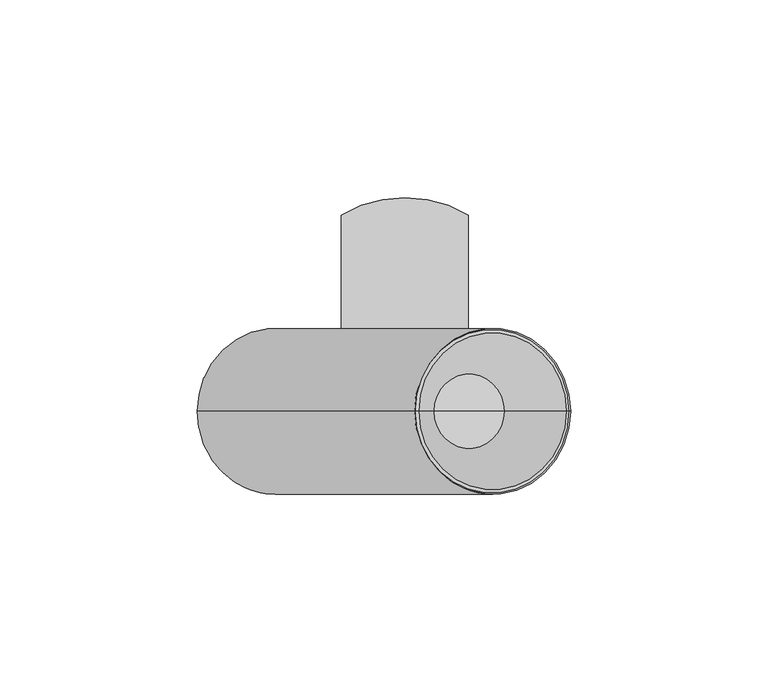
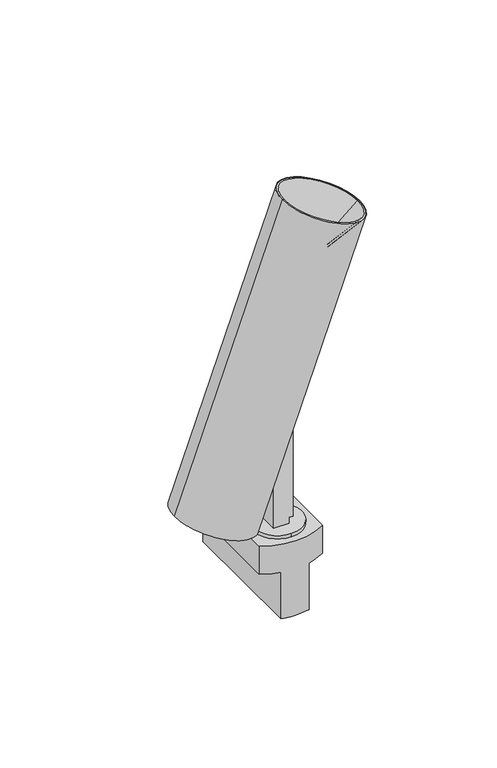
"""IFC4 building model written with IfcOpenShell, lengths in millimetres: light fixture geometry, PIPES T XS : 630lm 7,8W 840 38°."""

from ifc_helpers import new_model, si_unit, point, frame, frame_2d, origin, origin_2d, place, context, project, spatial, polyline, circle_curve, trimmed, segment, composite_curve, outline, extrude, source, transform, mapped, element, save
from ifc_brep_helpers import plane_surface, cylinder_surface, revolved_surface, advanced_brep


def light_fixture_f12659c4(model_context):
    return source(origin(), model_context, "Body", "SolidModel", [
        extrude(outline(composite_curve([segment(polyline([(16.8, -5.0), (16.8, 3.0), (19.8, 3.0), (19.8, 5.0), (77.8486083, 5.0), (77.8486083, -3.0)]), True, "CONTINUOUS"), segment(trimmed(circle_curve(frame_2d((72.2216603, -3.0)), 5.626948), [point((77.8486083, -3.0))], [point((72.2216603, -8.626948))], False, "CARTESIAN"), True, "CONTINUOUS"), segment(polyline([(72.2216603, -8.626948), (66.4039036, -8.626948)]), True, "CONTINUOUS"), segment(trimmed(circle_curve(frame_2d((74.2485419, -2.7611322)), 9.7952104), [point((66.4039036, -8.626948))], [point((64.7126299, -5.0))], False, "CARTESIAN"), True, "CONTINUOUS"), segment(polyline([(64.7126299, -5.0), (16.8, -5.0)]), True, "CONTINUOUS")], self_intersect=False)), frame((0.0, -5.0, 0.0), z_axis=(0.0, 1.0, 0.0), x_axis=(0.0, 0.0, 1.0)), (0.0, 0.0, 1.0), 10.0),
        extrude(outline(composite_curve([segment(trimmed(circle_curve(origin_2d(), 12.5), [point((0.0, 12.5))], [point((0.0, -12.5))], False, "CARTESIAN"), True, "CONTINUOUS"), segment(trimmed(circle_curve(origin_2d(), 12.5), [point((0.0, -12.5))], [point((0.0, 12.5))], False, "CARTESIAN"), True, "CONTINUOUS")], self_intersect=False)), frame((0.0, 0.0, 15.0), z_axis=(0.0, 0.0, 1.0), x_axis=(1.0, 0.0, 0.0)), (0.0, 0.0, 1.0), 1.8),
        advanced_brep(
        [(-7.1153658, -15.2862846, -25.0), (-7.1153658, 53.3498174, -25.0), (7.1153658, 53.3498174, -25.0), (7.1153658, -15.2862846, -25.0), (-16.1153658, 49.7317664, 15.0), (-16.1153658, -11.6682336, 15.0), (16.1153658, -11.6682336, 15.0), (16.1153658, 49.7317664, 15.0), (-16.1153658, 49.7317664, 0.0), (-16.1153658, -11.6682336, 0.0), (-7.1153658, -15.2862846, 0.0), (7.1153658, -15.2862846, 0.0), (16.1153658, -11.6682336, 0.0), (16.1153658, 49.7317664, 0.0), (7.1153658, 53.3498174, 0.0), (-7.1153658, 53.3498174, 0.0)],
        [
            (0, 1),
            (1, 2, circle_curve(frame((0.0, 22.6472542, -25.0), z_axis=(0.0, 0.0, -1.0), x_axis=(1.0, 0.0, 0.0)), 31.5162786)),
            (2, 3),
            (3, 0, circle_curve(frame((0.0, 15.4162786, -25.0), z_axis=(0.0, 0.0, -1.0), x_axis=(1.0, 0.0, 0.0)), 31.5162786)),
            (4, 5),
            (5, 6, circle_curve(frame((0.0, 15.4162786, 15.0), z_axis=(0.0, 0.0, 1.0), x_axis=(1.0, 0.0, 0.0)), 31.5162786)),
            (6, 7),
            (7, 4, circle_curve(frame((0.0, 22.6472542, 15.0), z_axis=(0.0, 0.0, 1.0), x_axis=(1.0, 0.0, 0.0)), 31.5162786)),
            (4, 8),
            (8, 9),
            (9, 5),
            (9, 10, circle_curve(frame((0.0, 15.4162786, 0.0), z_axis=(0.0, 0.0, 1.0), x_axis=(1.0, 0.0, 0.0)), 31.5162786)),
            (10, 0),
            (3, 11),
            (11, 12, circle_curve(frame((0.0, 15.4162786, 0.0), z_axis=(0.0, 0.0, 1.0), x_axis=(1.0, 0.0, 0.0)), 31.5162786)),
            (12, 6),
            (12, 13),
            (13, 7),
            (13, 14, circle_curve(frame((0.0, 22.6472542, 0.0), z_axis=(0.0, 0.0, 1.0), x_axis=(1.0, 0.0, 0.0)), 31.5162786)),
            (14, 2),
            (1, 15),
            (15, 8, circle_curve(frame((0.0, 22.6472542, 0.0), z_axis=(0.0, 0.0, 1.0), x_axis=(1.0, 0.0, 0.0)), 31.5162786)),
            (15, 10),
            (11, 14),
        ],
        [
            plane_surface(frame((-16.1153658, -11.6883244, -25.0), z_axis=(0.0, 0.0, -1.0), x_axis=(0.0, 1.0, 0.0))),
            plane_surface(frame((-16.1153658, -11.6883244, 15.0), z_axis=(0.0, 0.0, 1.0), x_axis=(0.0, -1.0, 0.0))),
            plane_surface(frame((-16.1153658, 49.7317664, 15.0), z_axis=(-1.0, 0.0, 0.0), x_axis=(0.0, 0.0, -1.0))),
            cylinder_surface(frame((0.0, 15.4162786, -25.0), z_axis=(0.0, 0.0, 1.0), x_axis=(1.0, 0.0, 0.0)), 31.5162786),
            plane_surface(frame((16.1153658, -11.6682336, 15.0), z_axis=(1.0, 0.0, 0.0), x_axis=(0.0, 0.0, -1.0))),
            cylinder_surface(frame((0.0, 22.6472542, -25.0), z_axis=(0.0, 0.0, 1.0), x_axis=(1.0, 0.0, 0.0)), 31.5162786),
            plane_surface(frame((-7.1153658, 58.6979838, 0.0), z_axis=(0.0, 0.0, -1.0), x_axis=(-1.0, 0.0, 0.0))),
            plane_surface(frame((-7.1153658, -21.3020162, 0.0), z_axis=(-1.0, 0.0, 0.0), x_axis=(0.0, 0.0, -1.0))),
            plane_surface(frame((7.1153658, -11.6883244, 0.0), z_axis=(0.0, 0.0, -1.0), x_axis=(0.0, -1.0, 0.0))),
            plane_surface(frame((7.1153658, 58.6979838, 0.0), z_axis=(1.0, 0.0, 0.0), x_axis=(0.0, 0.0, -1.0))),
        ],
        [
            (0, [[1, 2, 3, 4]]),
            (1, [[5, 6, 7, 8]]),
            (2, [[-5, 9, 10, 11]]),
            (3, [[-6, -11, 12, 13, -4, 14, 15, 16]]),
            (4, [[-7, -16, 17, 18]]),
            (5, [[-8, -18, 19, 20, -2, 21, 22, -9]]),
            (6, [[23, -12, -10, -22]]),
            (7, [[-23, -21, -1, -13]]),
            (8, [[24, -19, -17, -15]]),
            (9, [[-24, -14, -3, -20]]),
        ],
    ),
        advanced_brep(
        [(-2.9883624, 5.0, 79.4085638), (-20.4313897, 5.0, 31.4842402), (-13.5431583, 5.0, 28.977129), (-15.5952791, 5.0, 23.3389732), (-13.6540853, 5.0, 22.6324365), (5.8410628, 5.0, 76.1949159), (-2.9883624, -5.0, 79.4085638), (5.8410628, -5.0, 76.1949159), (-13.6540853, -5.0, 22.6324365), (-15.5952791, -5.0, 23.3389732), (-13.5431583, -5.0, 28.977129), (-20.4313897, -5.0, 31.4842402), (-20.4313897, 0.0, 31.4842402), (6.4085638, 0.0, 75.9883624), (41.9786587, 0.0, 173.7163949), (2.5115687, 0.0, 188.081241), (-52.5536744, 0.0, 36.790729), (-50.6742892, 0.0, 36.1066887), (-48.6221683, 0.0, 41.7448445), (-30.7680085, 0.0, 35.2464617), (6.5208148, 0.0, 166.9347059), (25.3146672, 0.0, 160.094303), (15.917741, 0.0, 163.5145045)],
        [
            (0, 1),
            (1, 2),
            (2, 3),
            (3, 4),
            (4, 5),
            (5, 0),
            (6, 7),
            (7, 8),
            (8, 9),
            (9, 10),
            (10, 11),
            (11, 6),
            (0, 6),
            (11, 12),
            (12, 1),
            (5, 13, circle_curve(frame((-13.3249812, 0.0, 83.1707854), z_axis=(-0.34202014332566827, 0.0, -0.9396926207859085), x_axis=(0.9396926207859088, 0.0, -0.3420201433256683)), 21.0)),
            (13, 7, circle_curve(frame((-13.3249812, 0.0, 83.1707854), z_axis=(-0.34202014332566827, 0.0, -0.9396926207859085), x_axis=(0.9396926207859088, 0.0, -0.3420201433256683)), 21.0)),
            (14, 15, circle_curve(frame((22.2451137, 0.0, 180.898818), z_axis=(-0.34202014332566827, 0.0, -0.9396926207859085), x_axis=(0.9396926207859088, 0.0, -0.3420201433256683)), 21.0)),
            (15, 16),
            (16, 8, circle_curve(frame((-32.8201294, 0.0, 29.608306), z_axis=(0.34202014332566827, 0.0, 0.9396926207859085), x_axis=(0.9396926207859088, 0.0, -0.3420201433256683)), 21.0)),
            (13, 14),
            (15, 14, circle_curve(frame((22.2451137, 0.0, 180.898818), z_axis=(-0.34202014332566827, 0.0, -0.9396926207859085), x_axis=(0.9396926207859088, 0.0, -0.3420201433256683)), 21.0)),
            (4, 16, circle_curve(frame((-32.8201294, 0.0, 29.608306), z_axis=(0.34202014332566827, 0.0, 0.9396926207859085), x_axis=(0.9396926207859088, 0.0, -0.3420201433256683)), 21.0)),
            (16, 17),
            (17, 9, circle_curve(frame((-32.8201294, 0.0, 29.608306), z_axis=(0.34202014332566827, 0.0, 0.9396926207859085), x_axis=(0.9396926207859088, 0.0, -0.3420201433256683)), 19.0)),
            (3, 17, circle_curve(frame((-32.8201294, 0.0, 29.608306), z_axis=(0.34202014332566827, 0.0, 0.9396926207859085), x_axis=(0.9396926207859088, 0.0, -0.3420201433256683)), 19.0)),
            (17, 18),
            (18, 10, circle_curve(frame((-30.7680085, 0.0, 35.2464617), z_axis=(0.34202014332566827, 0.0, 0.9396926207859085), x_axis=(0.9396926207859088, 0.0, -0.3420201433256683)), 19.0)),
            (2, 18, circle_curve(frame((-30.7680085, 0.0, 35.2464617), z_axis=(0.34202014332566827, 0.0, 0.9396926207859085), x_axis=(0.9396926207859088, 0.0, -0.3420201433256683)), 19.0)),
            (18, 19),
            (19, 12),
            (20, 21, circle_curve(frame((15.917741, 0.0, 163.5145045), z_axis=(0.34202014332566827, 0.0, 0.9396926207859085), x_axis=(0.9396926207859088, 0.0, -0.3420201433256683)), 10.0)),
            (21, 22),
            (22, 20),
            (21, 20, circle_curve(frame((15.917741, 0.0, 163.5145045), z_axis=(0.34202014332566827, 0.0, 0.9396926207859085), x_axis=(0.9396926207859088, 0.0, -0.3420201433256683)), 10.0)),
            (14, 21),
            (20, 15),
        ],
        [
            plane_surface(frame((-2.9883624, 5.0, 79.4085638), z_axis=(0.0, -1.0, 0.0), x_axis=(0.3420201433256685, 0.0, 0.9396926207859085))),
            plane_surface(frame((-2.9883624, -5.0, 79.4085638), z_axis=(0.0, 1.0, 0.0), x_axis=(-0.3420201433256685, 0.0, -0.9396926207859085))),
            plane_surface(frame((-2.9883624, -5.0, 79.4085638), z_axis=(0.9396926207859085, 0.0, -0.3420201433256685), x_axis=(0.0, 1.0, 0.0))),
            plane_surface(frame((15.80549, -5.0, 72.568161), z_axis=(-0.3420201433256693, 0.0, -0.9396926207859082), x_axis=(0.0, 1.0, 0.0))),
            cylinder_surface(frame((-35.7110139, 0.0, 21.665666), z_axis=(-0.34202014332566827, 0.0, -0.9396926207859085), x_axis=(0.9396926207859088, 0.0, -0.3420201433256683)), 21.0),
            plane_surface(frame((-32.8201294, 0.0, 29.608306), z_axis=(-0.34202014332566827, 0.0, -0.9396926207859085), x_axis=(0.9396926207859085, 0.0, -0.34202014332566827))),
            revolved_surface(polyline([(-14.965969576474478, 0.0, 23.109923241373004), (-12.91384868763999, 0.0, 28.748079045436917)]), (-35.7110139, 0.0, 21.665666), (-0.34202014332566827, 0.0, -0.9396926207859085)),
            plane_surface(frame((-30.7680085, 0.0, 35.2464617), z_axis=(-0.34202014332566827, 0.0, -0.9396926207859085), x_axis=(0.9396926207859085, 0.0, -0.34202014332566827))),
            plane_surface(frame((15.917741, 0.0, 163.5145045), z_axis=(0.34202014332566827, 0.0, 0.9396926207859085), x_axis=(0.9396926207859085, 0.0, -0.34202014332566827))),
            revolved_surface(polyline([(25.3146672, 0.0, 160.094303), (41.9786587, 0.0, 173.7163949)]), (-35.7110139, 0.0, 21.665666), (-0.34202014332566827, 0.0, -0.9396926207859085)),
        ],
        [
            (0, [[1, 2, 3, 4, 5, 6]]),
            (1, [[7, 8, 9, 10, 11, 12]]),
            (2, [[13, -12, 14, 15, -1]]),
            (3, [[-13, -6, 16, 17, -7]]),
            (4, [[18, 19, 20, -8, -17, 21]]),
            (4, [[-19, 22, -21, -16, -5, 23]]),
            (5, [[24, 25, -9, -20]]),
            (5, [[-24, -23, -4, 26]]),
            (6, [[27, 28, -10, -25]]),
            (6, [[-27, -26, -3, 29]]),
            (7, [[30, 31, -14, -11, -28]]),
            (7, [[-30, -29, -2, -15, -31]]),
            (8, [[32, 33, 34]]),
            (8, [[-33, 35, -34]]),
            (9, [[-18, 36, -32, 37]]),
            (9, [[-22, -37, -35, -36]]),
        ],
    ),
        advanced_brep(
        [(-21.7994703, 5.0, 27.7254697), (-22.4835106, 5.0, 25.8460844), (-17.5581813, 5.0, 24.0534112), (-16.874141, 5.0, 25.9327964), (-22.4835106, -5.0, 25.8460844), (-21.7994703, -5.0, 27.7254697), (-16.874141, -5.0, 25.9327964), (-17.5581813, -5.0, 24.0534112), (-21.7994703, 0.0, 27.7254697), (-22.4835106, 0.0, 25.8460844), (-32.1360891, 0.0, 31.4876913), (-48.1048904, 0.0, 37.2998596), (-48.7889307, 0.0, 35.4204744), (-32.8201294, 0.0, 29.608306)],
        [
            (0, 1),
            (1, 2),
            (2, 3),
            (3, 0),
            (4, 5),
            (5, 6),
            (6, 7),
            (7, 4),
            (0, 8),
            (8, 5),
            (4, 9),
            (9, 1),
            (10, 11),
            (11, 6, circle_curve(frame((-32.1360891, 0.0, 31.4876913), z_axis=(0.34202014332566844, 0.0, 0.9396926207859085), x_axis=(0.9396926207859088, 0.0, -0.3420201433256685)), 16.9936434)),
            (8, 10),
            (3, 11, circle_curve(frame((-32.1360891, 0.0, 31.4876913), z_axis=(0.34202014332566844, 0.0, 0.9396926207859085), x_axis=(0.9396926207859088, 0.0, -0.3420201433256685)), 16.9936434)),
            (11, 12),
            (12, 7, circle_curve(frame((-32.8201294, 0.0, 29.608306), z_axis=(0.34202014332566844, 0.0, 0.9396926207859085), x_axis=(0.9396926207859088, 0.0, -0.3420201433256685)), 16.9936434)),
            (2, 12, circle_curve(frame((-32.8201294, 0.0, 29.608306), z_axis=(0.34202014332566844, 0.0, 0.9396926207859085), x_axis=(0.9396926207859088, 0.0, -0.3420201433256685)), 16.9936434)),
            (12, 13),
            (13, 9),
        ],
        [
            plane_surface(frame((-2.9883624, 5.0, 79.4085638), z_axis=(0.0, -1.0, 0.0), x_axis=(0.3420201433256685, 0.0, 0.9396926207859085))),
            plane_surface(frame((-2.9883624, -5.0, 79.4085638), z_axis=(0.0, 1.0, 0.0), x_axis=(-0.3420201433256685, 0.0, -0.9396926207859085))),
            plane_surface(frame((-2.9883624, -5.0, 79.4085638), z_axis=(0.9396926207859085, 0.0, -0.3420201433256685), x_axis=(0.0, 1.0, 0.0))),
            plane_surface(frame((-32.1360891, 0.0, 31.4876913), z_axis=(0.34202014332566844, 0.0, 0.9396926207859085), x_axis=(0.9396926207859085, 0.0, -0.34202014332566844))),
            cylinder_surface(frame((12.3428162, 0.0, 153.6924792), z_axis=(-0.34202014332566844, 0.0, -0.9396926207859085), x_axis=(0.9396926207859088, 0.0, -0.3420201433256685)), 16.9936434),
            plane_surface(frame((-32.8201294, 0.0, 29.608306), z_axis=(-0.34202014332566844, 0.0, -0.9396926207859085), x_axis=(0.9396926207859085, 0.0, -0.34202014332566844))),
        ],
        [
            (0, [[1, 2, 3, 4]]),
            (1, [[5, 6, 7, 8]]),
            (2, [[-1, 9, 10, -5, 11, 12]]),
            (3, [[13, 14, -6, -10, 15]]),
            (3, [[-13, -15, -9, -4, 16]]),
            (4, [[17, 18, -7, -14]]),
            (4, [[-17, -16, -3, 19]]),
            (5, [[20, 21, -11, -8, -18]]),
            (5, [[-20, -19, -2, -12, -21]]),
        ],
    ),
        advanced_brep(
        [(7.3973547, 0.0, 167.6798493), (25.1221677, 0.0, 161.2285449), (16.2597612, 0.0, 164.4541971), (3.6048245, 0.0, 187.6833284), (40.8854029, 0.0, 174.1143075), (2.5115687, 0.0, 188.081241), (41.9786587, 0.0, 173.7163949), (6.5208148, 0.0, 166.9347059), (25.3146672, 0.0, 160.094303), (15.917741, 0.0, 163.5145045)],
        [
            (0, 1, circle_curve(frame((16.2597612, 0.0, 164.4541971), z_axis=(0.34202014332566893, 0.0, 0.9396926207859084), x_axis=(0.9396926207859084, 0.0, -0.34202014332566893)), 9.431176)),
            (1, 2),
            (2, 0),
            (1, 0, circle_curve(frame((16.2597612, 0.0, 164.4541971), z_axis=(0.34202014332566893, 0.0, 0.9396926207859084), x_axis=(0.9396926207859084, 0.0, -0.34202014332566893)), 9.431176)),
            (3, 4, circle_curve(frame((22.2451137, 0.0, 180.898818), z_axis=(0.34202014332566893, 0.0, 0.9396926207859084), x_axis=(0.9396926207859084, 0.0, -0.34202014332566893)), 19.8365814)),
            (4, 1),
            (0, 3),
            (4, 3, circle_curve(frame((22.2451137, 0.0, 180.898818), z_axis=(0.34202014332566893, 0.0, 0.9396926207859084), x_axis=(0.9396926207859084, 0.0, -0.34202014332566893)), 19.8365814)),
            (5, 6, circle_curve(frame((22.2451137, 0.0, 180.898818), z_axis=(0.34202014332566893, 0.0, 0.9396926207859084), x_axis=(0.9396926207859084, 0.0, -0.34202014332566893)), 21.0)),
            (6, 4),
            (3, 5),
            (6, 5, circle_curve(frame((22.2451137, 0.0, 180.898818), z_axis=(0.34202014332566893, 0.0, 0.9396926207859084), x_axis=(0.9396926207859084, 0.0, -0.34202014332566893)), 21.0)),
            (7, 8, circle_curve(frame((15.917741, 0.0, 163.5145045), z_axis=(0.34202014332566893, 0.0, 0.9396926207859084), x_axis=(0.9396926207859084, 0.0, -0.34202014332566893)), 10.0)),
            (8, 6),
            (5, 7),
            (8, 7, circle_curve(frame((15.917741, 0.0, 163.5145045), z_axis=(0.34202014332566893, 0.0, 0.9396926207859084), x_axis=(0.9396926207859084, 0.0, -0.34202014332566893)), 10.0)),
            (9, 8),
            (7, 9),
        ],
        [
            plane_surface(frame((16.2597612, 0.0, 164.4541971), z_axis=(0.34202014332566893, 0.0, 0.9396926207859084), x_axis=(0.9396926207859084, 0.0, -0.34202014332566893))),
            revolved_surface(polyline([(25.1221677, 0.0, 161.2285449), (40.8854029, 0.0, 174.1143075)]), (-42.5514168, 0.0, 2.8718136), (-0.3420201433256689, 0.0, -0.9396926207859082)),
            plane_surface(frame((22.2451137, 0.0, 180.898818), z_axis=(0.34202014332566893, 0.0, 0.9396926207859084), x_axis=(0.9396926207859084, 0.0, -0.34202014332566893))),
            revolved_surface(polyline([(41.9786587, 0.0, 173.7163949), (25.3146672, 0.0, 160.094303)]), (-42.5514168, 0.0, 2.8718136), (-0.3420201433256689, 0.0, -0.9396926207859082)),
            plane_surface(frame((15.917741, 0.0, 163.5145045), z_axis=(-0.34202014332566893, 0.0, -0.9396926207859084), x_axis=(0.9396926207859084, 0.0, -0.34202014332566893))),
        ],
        [
            (0, [[1, 2, 3]]),
            (0, [[4, -3, -2]]),
            (1, [[5, 6, -1, 7]]),
            (1, [[8, -7, -4, -6]]),
            (2, [[9, 10, -5, 11]]),
            (2, [[12, -11, -8, -10]]),
            (3, [[13, 14, -9, 15]]),
            (3, [[16, -15, -12, -14]]),
            (4, [[17, -13, 18]]),
            (4, [[-18, -16, -17]]),
        ],
    ),
    ])


if __name__ == "__main__":
    model = new_model("IFC4")
    model_context = context("Model", 3, world=origin())
    ifc_project = project(units=[si_unit("LENGTHUNIT", "METRE", prefix="MILLI")], contexts=[model_context])
    site = spatial("IfcSite", under=ifc_project)
    building = spatial("IfcBuilding", under=site)
    placement = place(None, origin())
    light_fixture_shape = light_fixture_f12659c4(model_context)
    element("IfcLightFixture", 1, ObjectType="PIPES T XS : 630lm 7,8W 840 38°", at=placement, inside=building, context=model_context, shape_type="MappedRepresentation", body=[
        mapped(light_fixture_shape, transform((0.0, 0.0, 0.0), x_axis=(1.0, 0.0, 0.0), y_axis=(0.0, 1.0, 0.0), z_axis=(0.0, 0.0, 1.0))),
    ])
    save(model, "model.ifc")
